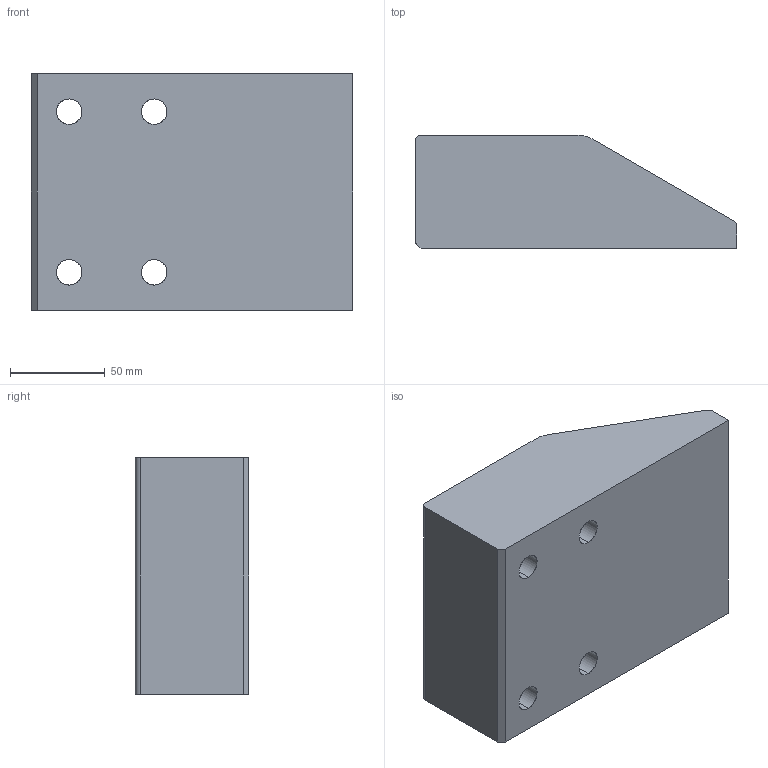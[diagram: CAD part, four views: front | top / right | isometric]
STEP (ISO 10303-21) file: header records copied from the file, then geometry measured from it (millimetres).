
FILE_DESCRIPTION(('CATIA V5 STEP Exchange'),'2;1');
FILE_NAME('C:\Users\Utente\Desktop\3D files A934\A934-12517060.stp','2020-04-17T08:27:13+00:00',('none'),('none'),'CATIA Version 5 Release 20 GA (IN-10)','CATIA V5 STEP AP203','none');
FILE_SCHEMA(('CONFIG_CONTROL_DESIGN'));
Length unit declared in the file: millimetre
Products named in the file (1): Noname
Bounding box: 170 x 60 x 125 mm (x, y, z)
Surface area: 81919.6 mm2 (no closed solid volume)
Topology: 0 solids, 27 shells, 39 faces, 158 edges, 134 vertices
Faces by surface type: cylinder 19, extrusion 12, revolution 8
Entity records: 2132 total; most frequent: CARTESIAN_POINT 870, ORIENTED_EDGE 182, DIRECTION 174, EDGE_CURVE 158, VERTEX_POINT 134, AXIS2_PLACEMENT_3D 82, VECTOR 66, B_SPLINE_CURVE_WITH_KNOTS 62
